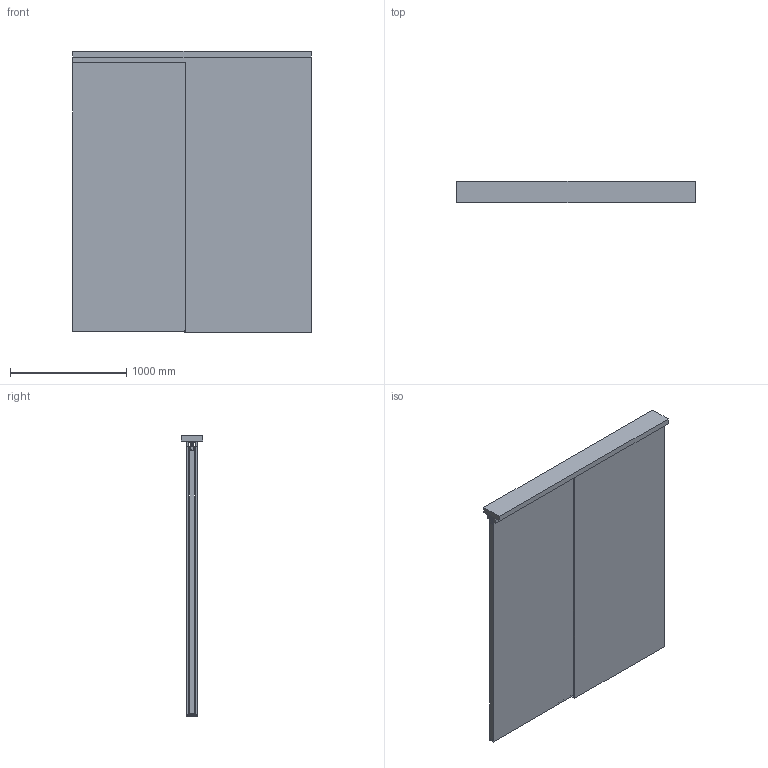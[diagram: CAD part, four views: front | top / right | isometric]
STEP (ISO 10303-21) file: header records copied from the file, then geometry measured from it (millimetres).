
FILE_DESCRIPTION(('STEP AP242'),'1');
FILE_NAME('OPO_65.080.32.stp','2026-01-14T05:30:05',(' '),(' '),'Spatial InterOp 3D',' ',' ');
FILE_SCHEMA(('AP242_MANAGED_MODEL_BASED_3D_ENGINEERING_MIM_LF {1 0 10303 442 1 1 4}'));
Length unit declared in the file: millimetre
Products named in the file (7): Zeichnung2; OPO_65.082.78; OPO_65.080.32_Laufwerk; OPO_65.080.32_Aufhaengung_minimal_Holz; OPO_65.082.61; OPO_65.080.32_Bodenfuehrung_Pocket_Holz; AutoCreatedBlock_156
Assembly tree (9 placements, depth 2):
  Zeichnung2
    OPO_65.082.78  x2
    OPO_65.080.32_Laufwerk  x2
    OPO_65.080.32_Aufhaengung_minimal_Holz  x2
    OPO_65.082.61
    OPO_65.080.32_Bodenfuehrung_Pocket_Holz
    AutoCreatedBlock_156
Bounding box: 2050.5 x 188 x 2418 mm (x, y, z)
Volume: 212195061.7 mm3; surface area: 17849686.9 mm2
Topology: 72 solids, 72 shells, 1316 faces, 3338 edges, 2210 vertices
Faces by surface type: plane 810, cylinder 482, cone 24
Entity records: 34503 total; most frequent: CARTESIAN_POINT 4817, DIRECTION 4709, ORIENTED_EDGE 4574, EDGE_CURVE 2287, LINE 1659, VECTOR 1659, AXIS2_PLACEMENT_3D 1525, VERTEX_POINT 1514
